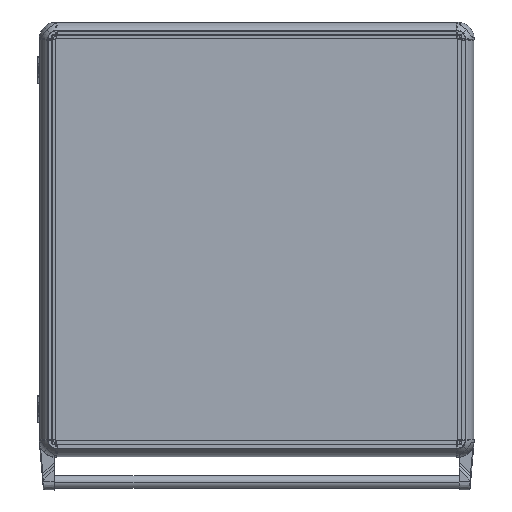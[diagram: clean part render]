
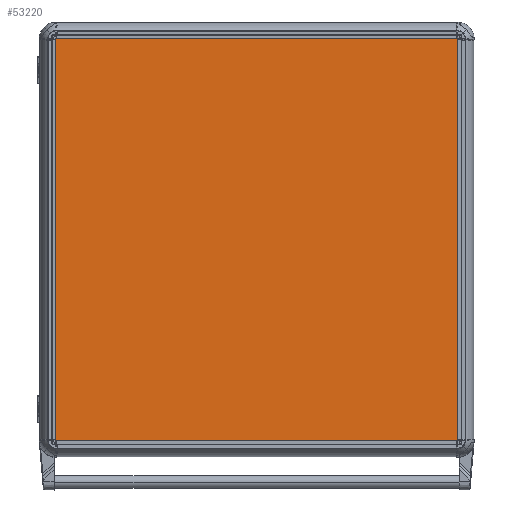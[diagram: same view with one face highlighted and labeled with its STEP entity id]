
A CAD part, top view. The second image highlights one B-rep face of the part: STEP entity #53220.
In plain terms, the highlighted planar face has unit normal (0, 0, 1).
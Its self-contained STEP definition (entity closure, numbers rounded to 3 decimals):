
#4361 = LINE ( 'NONE', #245889, #16108 ) ;
#4609 = CARTESIAN_POINT ( 'NONE',  ( 300., 300., 2. ) ) ;
#10862 = EDGE_CURVE ( 'NONE', #123136, #170166, #130018, .T. ) ;
#16108 = VECTOR ( 'NONE', #125792, 1000. ) ;
#18757 = AXIS2_PLACEMENT_3D ( 'NONE', #260210, #121419, #224162 ) ;
#28781 = CARTESIAN_POINT ( 'NONE',  ( -300., -300., 2. ) ) ;
#31427 = EDGE_CURVE ( 'NONE', #56226, #123136, #236849, .T. ) ;
#40704 = VECTOR ( 'NONE', #196198, 1000. ) ;
#41928 = VERTEX_POINT ( 'NONE', #249988 ) ;
#53220 = ADVANCED_FACE ( 'NONE', ( #220179 ), #98719, .T. ) ;
#54615 = VECTOR ( 'NONE', #184385, 1000. ) ;
#56032 = VECTOR ( 'NONE', #256765, 1000. ) ;
#56226 = VERTEX_POINT ( 'NONE', #4609 ) ;
#60427 = CARTESIAN_POINT ( 'NONE',  ( 300., 300., 2. ) ) ;
#84838 = ORIENTED_EDGE ( 'NONE', *, *, #171560, .T. ) ;
#84939 = CARTESIAN_POINT ( 'NONE',  ( -300., 300., 2. ) ) ;
#98719 = PLANE ( 'NONE',  #18757 ) ;
#102324 = ORIENTED_EDGE ( 'NONE', *, *, #31427, .T. ) ;
#109978 = CARTESIAN_POINT ( 'NONE',  ( -300., 300., 2. ) ) ;
#121419 = DIRECTION ( 'NONE',  ( 0., 0., 1. ) ) ;
#123136 = VERTEX_POINT ( 'NONE', #84939 ) ;
#124373 = LINE ( 'NONE', #60427, #54615 ) ;
#125792 = DIRECTION ( 'NONE',  ( 1., 0., 0. ) ) ;
#130018 = LINE ( 'NONE', #109978, #40704 ) ;
#147224 = ORIENTED_EDGE ( 'NONE', *, *, #214176, .T. ) ;
#148684 = ORIENTED_EDGE ( 'NONE', *, *, #10862, .T. ) ;
#155299 = CARTESIAN_POINT ( 'NONE',  ( -300., 300., 2. ) ) ;
#170166 = VERTEX_POINT ( 'NONE', #28781 ) ;
#171560 = EDGE_CURVE ( 'NONE', #41928, #56226, #124373, .T. ) ;
#184385 = DIRECTION ( 'NONE',  ( 0., 1., 0. ) ) ;
#196198 = DIRECTION ( 'NONE',  ( 0., -1., 0. ) ) ;
#214176 = EDGE_CURVE ( 'NONE', #170166, #41928, #4361, .T. ) ;
#220179 = FACE_OUTER_BOUND ( 'NONE', #232085, .T. ) ;
#224162 = DIRECTION ( 'NONE',  ( 1., 0., 0. ) ) ;
#232085 = EDGE_LOOP ( 'NONE', ( #84838, #102324, #148684, #147224 ) ) ;
#236849 = LINE ( 'NONE', #155299, #56032 ) ;
#245889 = CARTESIAN_POINT ( 'NONE',  ( -300., -300., 2. ) ) ;
#249988 = CARTESIAN_POINT ( 'NONE',  ( 300., -300., 2. ) ) ;
#256765 = DIRECTION ( 'NONE',  ( -1., 0., 0. ) ) ;
#260210 = CARTESIAN_POINT ( 'NONE',  ( 0., 0., 2. ) ) ;
